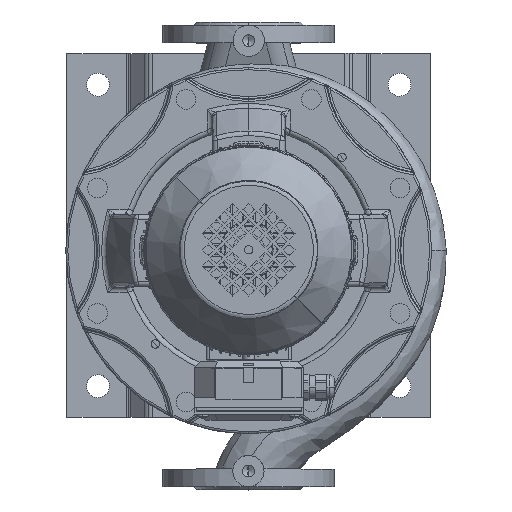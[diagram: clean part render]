
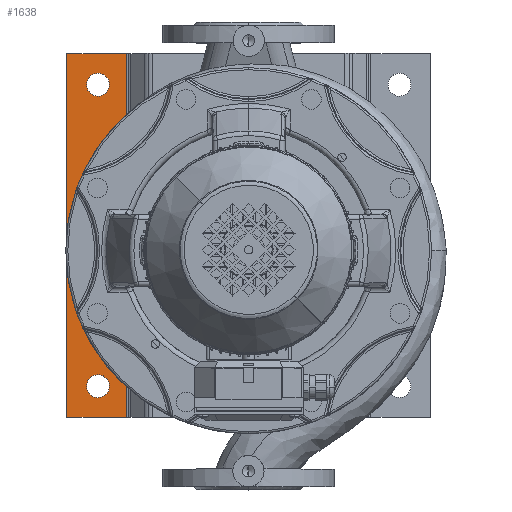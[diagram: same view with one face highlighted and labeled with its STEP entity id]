
A CAD part, top view. The second image highlights one B-rep face of the part: STEP entity #1638.
In plain terms, the highlighted planar face has unit normal (0, 0, 1) as drawn and (0, 1, 0) by its records, which use the part's own axes.
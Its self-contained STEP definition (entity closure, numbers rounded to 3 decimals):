
#1638=ADVANCED_FACE('',(#2971,#2972,#2973),#2974,.F.);
#1682=EDGE_CURVE('',#3054,#3055,#3056,.T.);
#2971=FACE_OUTER_BOUND('',#9173,.T.);
#2972=FACE_BOUND('',#9174,.T.);
#2973=FACE_BOUND('',#9175,.T.);
#2974=PLANE('',#9176);
#3054=VERTEX_POINT('',#9259);
#3055=VERTEX_POINT('',#9260);
#3056=LINE('',#9261,#9262);
#9173=EDGE_LOOP('',(#16386,#16387,#16388,#16389));
#9174=EDGE_LOOP('',(#16390,#16391));
#9175=EDGE_LOOP('',(#16392,#16393));
#9176=AXIS2_PLACEMENT_3D('',#16394,#16395,#16396);
#9259=CARTESIAN_POINT('',(350.,5.0,0.0));
#9260=CARTESIAN_POINT('',(292.485,5.0,0.0));
#9261=CARTESIAN_POINT('',(350.,5.0,0.0));
#9262=VECTOR('',#16634,1.);
#16386=ORIENTED_EDGE('',*,*,#31977,.F.);
#16387=ORIENTED_EDGE('',*,*,#31978,.F.);
#16388=ORIENTED_EDGE('',*,*,#31979,.F.);
#16389=ORIENTED_EDGE('',*,*,#1682,.T.);
#16390=ORIENTED_EDGE('',*,*,#31956,.T.);
#16391=ORIENTED_EDGE('',*,*,#31930,.T.);
#16392=ORIENTED_EDGE('',*,*,#31947,.T.);
#16393=ORIENTED_EDGE('',*,*,#31945,.T.);
#16394=CARTESIAN_POINT('',(320.,5.0,0.0));
#16395=DIRECTION('',(0.0,-1.0,0.0));
#16396=DIRECTION('',(1.0,0.0,0.0));
#16634=DIRECTION('',(-1.0,0.0,0.0));
#31930=EDGE_CURVE('',#50876,#50880,#50882,.T.);
#31945=EDGE_CURVE('',#50903,#50907,#50909,.T.);
#31947=EDGE_CURVE('',#50907,#50903,#50911,.T.);
#31956=EDGE_CURVE('',#50880,#50876,#50920,.T.);
#31977=EDGE_CURVE('',#50942,#3055,#50943,.T.);
#31978=EDGE_CURVE('',#50944,#50942,#50945,.T.);
#31979=EDGE_CURVE('',#3054,#50944,#50946,.T.);
#50876=VERTEX_POINT('',#60395);
#50880=VERTEX_POINT('',#60400);
#50882=CIRCLE('',#60403,11.0);
#50903=VERTEX_POINT('',#60428);
#50907=VERTEX_POINT('',#60433);
#50909=CIRCLE('',#60436,11.0);
#50911=CIRCLE('',#60438,11.0);
#50920=CIRCLE('',#60447,11.0);
#50942=VERTEX_POINT('',#60471);
#50943=LINE('',#60472,#60473);
#50944=VERTEX_POINT('',#60474);
#50945=LINE('',#60475,#60476);
#50946=LINE('',#60477,#60478);
#60395=CARTESIAN_POINT('',(317.522,5.0,19.283));
#60400=CARTESIAN_POINT('',(322.478,5.0,40.717));
#60403=AXIS2_PLACEMENT_3D('',#70814,#70815,#70816);
#60428=CARTESIAN_POINT('',(318.321,5.0,309.129));
#60433=CARTESIAN_POINT('',(321.679,5.0,330.871));
#60436=AXIS2_PLACEMENT_3D('',#70838,#70839,#70840);
#60438=AXIS2_PLACEMENT_3D('',#70841,#70842,#70843);
#60447=AXIS2_PLACEMENT_3D('',#70859,#70860,#70861);
#60471=CARTESIAN_POINT('',(292.485,5.0,350.0));
#60472=CARTESIAN_POINT('',(292.485,5.0,0.0));
#60473=VECTOR('',#70897,1.0);
#60474=CARTESIAN_POINT('',(350.,5.0,350.0));
#60475=CARTESIAN_POINT('',(350.,5.0,350.0));
#60476=VECTOR('',#70898,1.);
#60477=CARTESIAN_POINT('',(350.,5.0,0.0));
#60478=VECTOR('',#70899,1.0);
#70814=CARTESIAN_POINT('',(320.,5.0,30.0));
#70815=DIRECTION('',(-0.0,-1.0,0.0));
#70816=DIRECTION('',(-0.225,0.0,-0.974));
#70838=CARTESIAN_POINT('',(320.,5.0,320.0));
#70839=DIRECTION('',(-0.0,-1.0,0.0));
#70840=DIRECTION('',(-0.153,0.0,-0.988));
#70841=CARTESIAN_POINT('',(320.,5.0,320.0));
#70842=DIRECTION('',(-0.0,-1.0,0.0));
#70843=DIRECTION('',(-0.153,0.0,-0.988));
#70859=CARTESIAN_POINT('',(320.,5.0,30.0));
#70860=DIRECTION('',(-0.0,-1.0,0.0));
#70861=DIRECTION('',(-0.225,0.0,-0.974));
#70897=DIRECTION('',(0.0,0.0,-1.0));
#70898=DIRECTION('',(-1.0,0.0,0.0));
#70899=DIRECTION('',(0.0,0.0,1.0));
